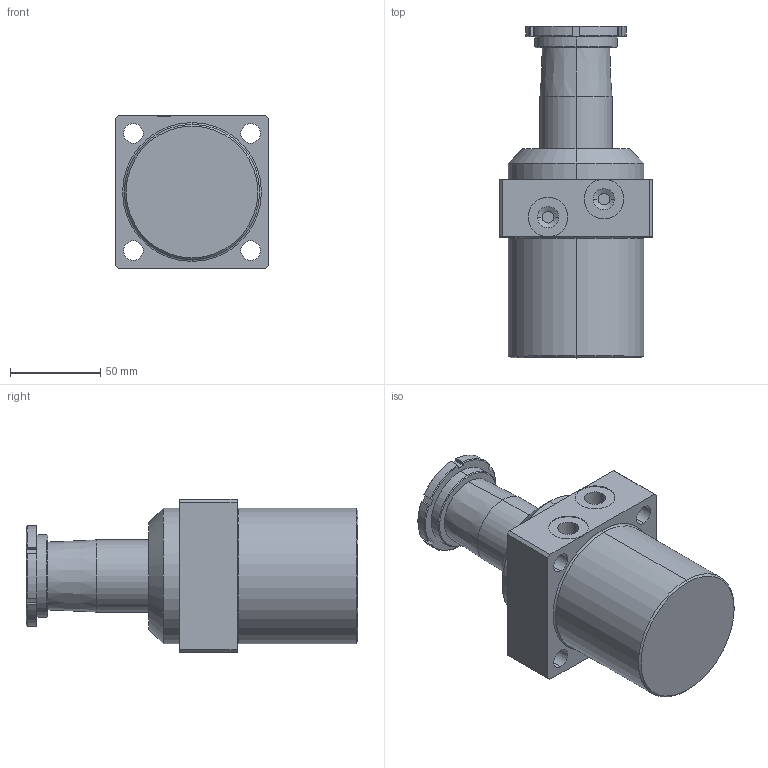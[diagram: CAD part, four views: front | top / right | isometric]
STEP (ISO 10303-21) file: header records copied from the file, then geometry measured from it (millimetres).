
FILE_DESCRIPTION (( 'STEP AP203' ), '1' );
FILE_NAME ('4110 526 529.STEP', '2016-01-28T11:36:21', ( '' ), ( '' ), 'SwSTEP 2.0', 'SolidWorks 2015', '' );
FILE_SCHEMA (( 'CONFIG_CONTROL_DESIGN' ));
Length unit declared in the file: millimetre
Products named in the file (1): 4110 526 529
Bounding box: 85 x 184 x 85 mm (x, y, z)
Volume: 670162 mm3; surface area: 61299.7 mm2
Topology: 1 solids, 2 shells, 110 faces, 274 edges, 174 vertices
Faces by surface type: cylinder 42, plane 34, cone 28, torus 6
Entity records: 3433 total; most frequent: CARTESIAN_POINT 655, DIRECTION 592, ORIENTED_EDGE 548, EDGE_CURVE 274, AXIS2_PLACEMENT_3D 231, VERTEX_POINT 174, VECTOR 130, LINE 130
